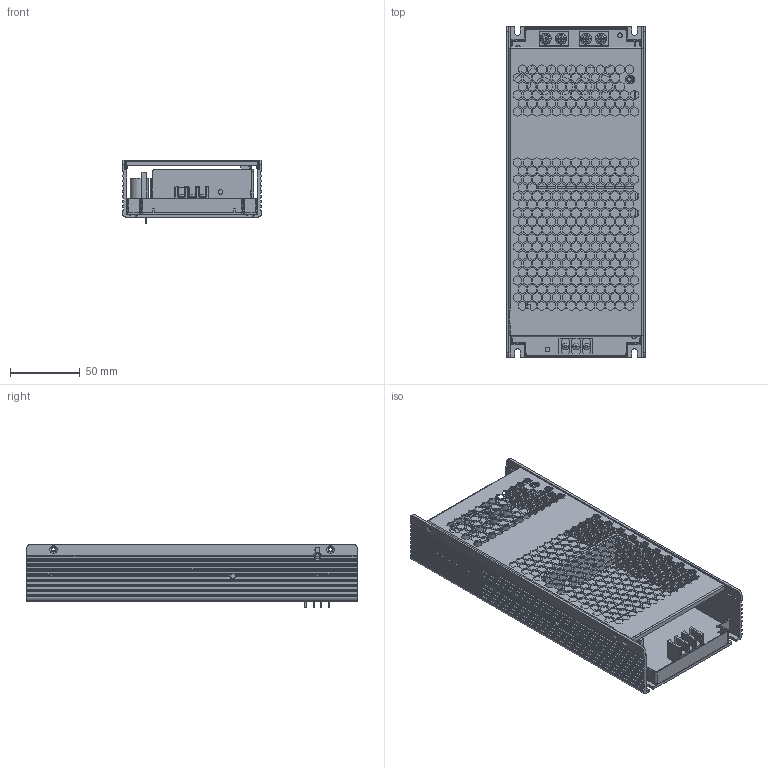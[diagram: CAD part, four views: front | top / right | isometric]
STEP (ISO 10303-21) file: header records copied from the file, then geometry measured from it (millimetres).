
FILE_DESCRIPTION(('Creo Elements/Direct Modeling STEP Export'),'2;1');
FILE_NAME('UHP-750.stp','2019-02-27T16:49:17',(''),(''),'PTC Creo Elements/Direct Modeling STEP processor for AP214 (Solid Model)','PTC Creo Elements/Direct Modeling 19.0 09-May-2014 (C) Parametric Technology GmbH','');
FILE_SCHEMA(('AUTOMOTIVE_DESIGN { 1 0 10303 214 1 1 1 1 }'));
Products named in the file (28): 上蓋; 22.1; HS2; HS1; HEL-23_ASM_1.ASM; HEL-23; JS100107.1; HSP-300A-D.2; HSP-300A-D.1; TTZ; HSP-300A-D; M3-7L.1.1.1.1; BASE; 1; lsz.1; lsz.2; 1ee4nel-400-2P.1; tb1; PCB; a1; a2; pin.1.2; 1AR-_3362W_5.PRT; 1AR-_3362W.ASM; VR70.ASM; UHP-750
Assembly tree (32 placements, depth 5):
  UHP-750
    HS2  x2
      pin.1.2
      HS1
    VR70.ASM
      1AR-_3362W.ASM
        1AR-_3362W_5.PRT
    a2
      a1
        PCB
        1ee4nel-400-2P.1  x2
          lsz.2
          lsz.1
          1
        tb1
      BASE
        M3-7L.1.1.1.1  x4
        HSP-300A-D
        TTZ
        HSP-300A-D.1
        HSP-300A-D.2
      JS100107.1
      HEL-23
        HEL-23_ASM_1.ASM
      HS1
      HS2
    22.1
    上蓋
Bounding box: 100 x 237 x 45.9 mm (x, y, z)
Volume: 177204 mm3; surface area: 205655.7 mm2
Topology: 18 solids, 22 shells, 3007 faces, 8616 edges, 5695 vertices
Faces by surface type: plane 2478, cylinder 403, extrusion 57, torus 42, cone 18, sphere 9
Entity records: 94680 total; most frequent: CARTESIAN_POINT 18954, ORIENTED_EDGE 16314, DIRECTION 13936, EDGE_CURVE 8153, VECTOR 7250, LINE 7193, VERTEX_POINT 5397, EDGE_LOOP 3512
